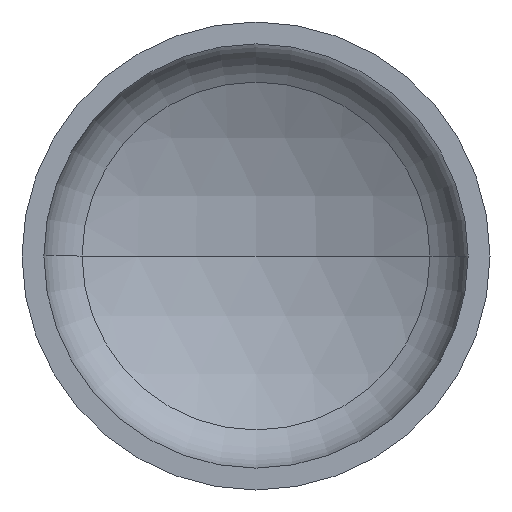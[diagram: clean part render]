
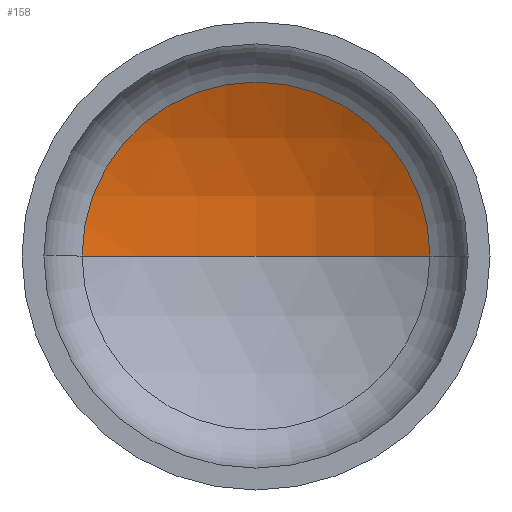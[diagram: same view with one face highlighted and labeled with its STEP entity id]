
A CAD part, front view. The second image highlights one B-rep face of the part: STEP entity #158.
In plain terms, the highlighted spherical face has radius 325 mm.
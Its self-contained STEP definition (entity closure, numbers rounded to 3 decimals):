
#3 = DIRECTION ( 'NONE',  ( 0., -1., 0. ) ) ;
#9 = FACE_OUTER_BOUND ( 'NONE', #28, .T. ) ;
#27 = CARTESIAN_POINT ( 'NONE',  ( 0., -172.887, 0. ) ) ;
#28 = EDGE_LOOP ( 'NONE', ( #169, #146, #325 ) ) ;
#30 = VERTEX_POINT ( 'NONE', #280 ) ;
#53 = AXIS2_PLACEMENT_3D ( 'NONE', #27, #276, #212 ) ;
#58 = AXIS2_PLACEMENT_3D ( 'NONE', #183, #198, #199 ) ;
#63 = AXIS2_PLACEMENT_3D ( 'NONE', #301, #256, #394 ) ;
#66 = AXIS2_PLACEMENT_3D ( 'NONE', #349, #3, #408 ) ;
#109 = VERTEX_POINT ( 'NONE', #319 ) ;
#128 = EDGE_CURVE ( 'NONE', #109, #140, #245, .T. ) ;
#140 = VERTEX_POINT ( 'NONE', #275 ) ;
#141 = EDGE_CURVE ( 'NONE', #30, #109, #180, .T. ) ;
#146 = ORIENTED_EDGE ( 'NONE', *, *, #141, .T. ) ;
#155 = EDGE_CURVE ( 'NONE', #30, #140, #304, .T. ) ;
#158 = ADVANCED_FACE ( 'NONE', ( #9 ), #295, .F. ) ;
#169 = ORIENTED_EDGE ( 'NONE', *, *, #155, .F. ) ;
#180 = CIRCLE ( 'NONE', #63, 325. ) ;
#183 = CARTESIAN_POINT ( 'NONE',  ( 0., -172.887, 0. ) ) ;
#198 = DIRECTION ( 'NONE',  ( 0., 0., 1. ) ) ;
#199 = DIRECTION ( 'NONE',  ( 1., 0., 0. ) ) ;
#212 = DIRECTION ( 'NONE',  ( -1., 0., 0. ) ) ;
#245 = CIRCLE ( 'NONE', #66, 151.008 ) ;
#256 = DIRECTION ( 'NONE',  ( 0., 0., -1. ) ) ;
#275 = CARTESIAN_POINT ( 'NONE',  ( -151.008, 114.901, 0. ) ) ;
#276 = DIRECTION ( 'NONE',  ( 0., 0., -1. ) ) ;
#280 = CARTESIAN_POINT ( 'NONE',  ( 0., 152.113, 0. ) ) ;
#295 = SPHERICAL_SURFACE ( 'NONE', #53, 325. ) ;
#301 = CARTESIAN_POINT ( 'NONE',  ( 0., -172.887, 0. ) ) ;
#304 = CIRCLE ( 'NONE', #58, 325. ) ;
#319 = CARTESIAN_POINT ( 'NONE',  ( 151.008, 114.901, 0. ) ) ;
#325 = ORIENTED_EDGE ( 'NONE', *, *, #128, .T. ) ;
#349 = CARTESIAN_POINT ( 'NONE',  ( 0., 114.901, 0. ) ) ;
#394 = DIRECTION ( 'NONE',  ( -1., 0., 0. ) ) ;
#408 = DIRECTION ( 'NONE',  ( 1., 0., 0. ) ) ;
